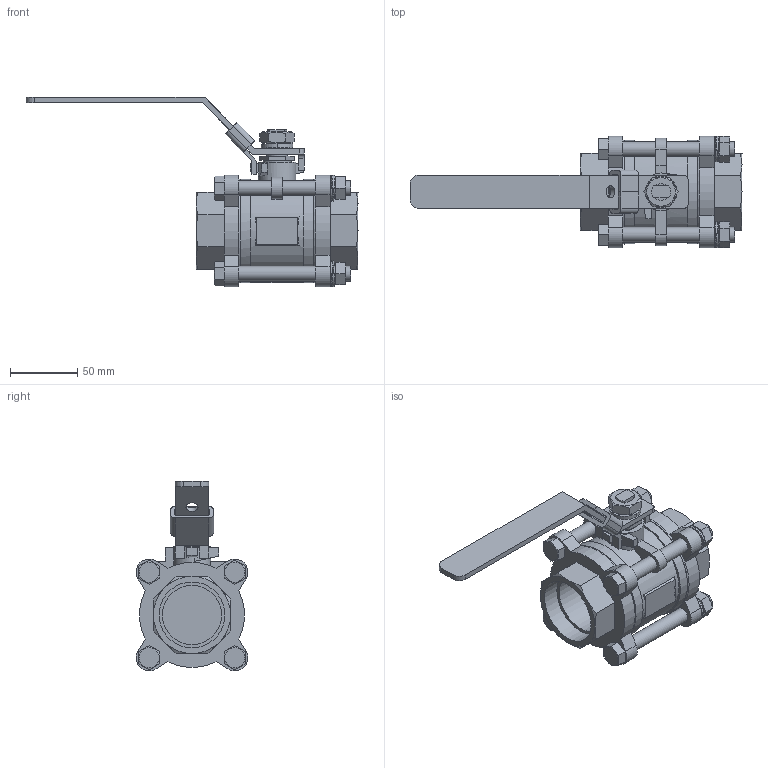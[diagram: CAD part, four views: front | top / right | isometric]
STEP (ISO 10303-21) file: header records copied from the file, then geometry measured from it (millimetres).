
FILE_DESCRIPTION((' '),'2;1');
FILE_NAME('N:\Technical Support\Private\Jomar Valve CAD\Ball Valves\CS and SS\1000N-4B\Socket Weld\1.5 S-CS[SS]-1000N-4B (500-507 [500-347])FusionCopy.stp.step','2017-05-25T16:35:40',(' '),(' '),' ','ACIS',' ');
FILE_SCHEMA(('CONFIG_CONTROL_DESIGN'));
Length unit declared in the file: inch
Products named in the file (22): N:\Technical Support\Private\Jomar Valve CAD\Ball Valves\CS and SS\1000N-4B\Socket Weld\1.5 S-CS[SS]-1000N-4B (500-507 [500-347])FusionCopy.stp.step; Body1; Body2; Body3; Body4; Body5; Body6; Body7; Body8; Body9; Body10; Body11; Body12; Body13; Body14; Body15; Body16; Body17; Body18; Body19; Body20; Body21
Assembly tree (21 placements, depth 2):
  N:\Technical Support\Private\Jomar Valve CAD\Ball Valves\CS and SS\1000N-4B\Socket Weld\1.5 S-CS[SS]-1000N-4B (500-507 [500-347])FusionCopy.stp.step
    Body1
    Body2
    Body3
    Body4
    Body5
    Body6
    Body7
    Body8
    Body9
    Body10
    Body11
    Body12
    Body13
    Body14
    Body15
    Body16
    Body17
    Body18
    Body19
    Body20
    Body21
Bounding box: 246.44 x 82.9 x 140.71 mm (x, y, z)
Volume: 473213.4 mm3; surface area: 115846.4 mm2
Topology: 21 solids, 21 shells, 421 faces, 1035 edges, 652 vertices
Faces by surface type: plane 169, bspline 148, cylinder 47, cone 41, torus 16
Full cylindrical faces by diameter (mm): 8.966 x1, 9.398 x2, 10.922 x2, 11.43 x1, 12.065 x4, 12.344 x1, 14.986 x1, 15.367 x1, 20.701 x1, 28.042 x1, 43.993 x1, 48.895 x1, 77.089 x1
Entity records: 17143 total; most frequent: CARTESIAN_POINT 4865, ORIENTED_EDGE 1944, DIRECTION 1809, EDGE_CURVE 972, AXIS2_PLACEMENT_3D 649, VERTEX_POINT 635, EDGE_LOOP 513, VECTOR 511
